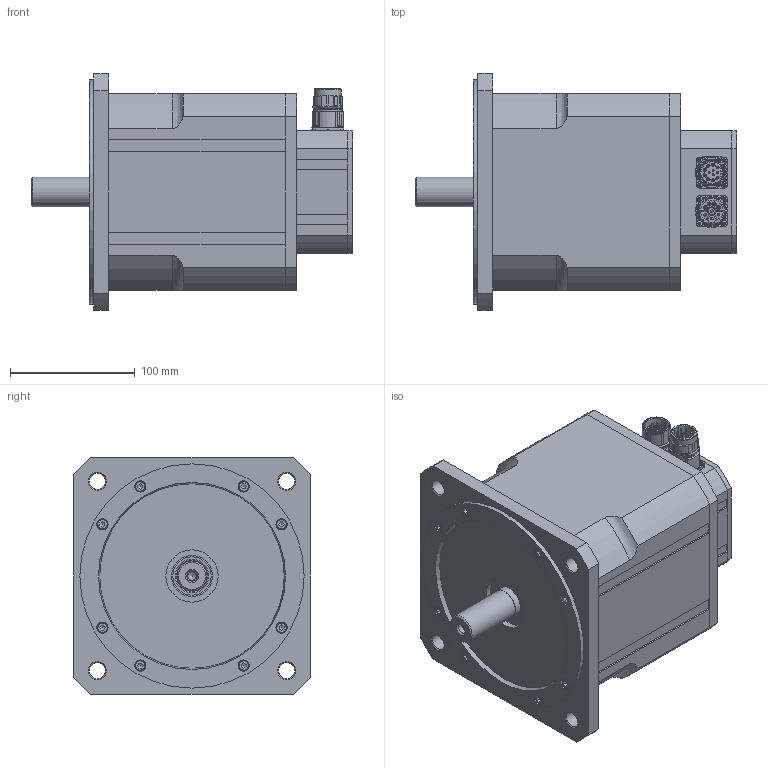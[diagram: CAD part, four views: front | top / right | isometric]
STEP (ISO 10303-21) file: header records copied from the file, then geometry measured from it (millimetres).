
FILE_DESCRIPTION(/* description */ (''),/* implementation_level */ '2;1');
FILE_NAME(/* name */ 'V:\6\N6025 00\3D Z\N6025 00 Z_3000_8P_12P.stp',/* time_stamp */ '2017-06-28T11:37:04+02:00',/* author */ ('simik'),/* organization */ (''),/* preprocessor_version */ 'ST-DEVELOPER v16.13',/* originating_system */ 'Autodesk Inventor 2018',/* authorisation */ '');
FILE_SCHEMA (('AUTOMOTIVE_DESIGN { 1 0 10303 214 3 1 1 }'));
Products named in the file (5): N6025 00 Z; N6025 00 Z_front; N6025 00 Z_3000; 127331; 127344
Assembly tree (4 placements, depth 2):
  N6025 00 Z
    N6025 00 Z_front
    N6025 00 Z_3000
    127331
    127344
Bounding box: 258 x 190 x 190 mm (x, y, z)
Volume: 1746555.6 mm3; surface area: 373034.2 mm2
Topology: 4 solids, 43 shells, 2105 faces, 5033 edges, 3107 vertices
Faces by surface type: cylinder 851, plane 670, torus 188, cone 185, bspline 164, sphere 47
Full cylindrical faces by diameter (mm): 1 x16, 1.18 x12, 1.3 x4, 2 x4, 2.013 x8, 2.15 x4, 2.208 x8, 2.4 x8, 2.459 x10, 2.5 x8, 2.7 x8, 3 x4, 3.242 x8, 3.3 x4, 3.545 x4, 3.95 x4, 4 x4, 4.134 x16, 4.4 x4, 5 x24, 5.3 x16, 5.8 x1, 6.5 x4, 6.647 x1, 6.8 x1, 8 x4, 8.4 x1, 8.5 x20, 9 x16, 13 x4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
Entity records: 67609 total; most frequent: CARTESIAN_POINT 19941, DIRECTION 9839, ORIENTED_EDGE 8778, EDGE_CURVE 4301, AXIS2_PLACEMENT_3D 4213, VERTEX_POINT 2865, EDGE_LOOP 2774, CIRCLE 2106
